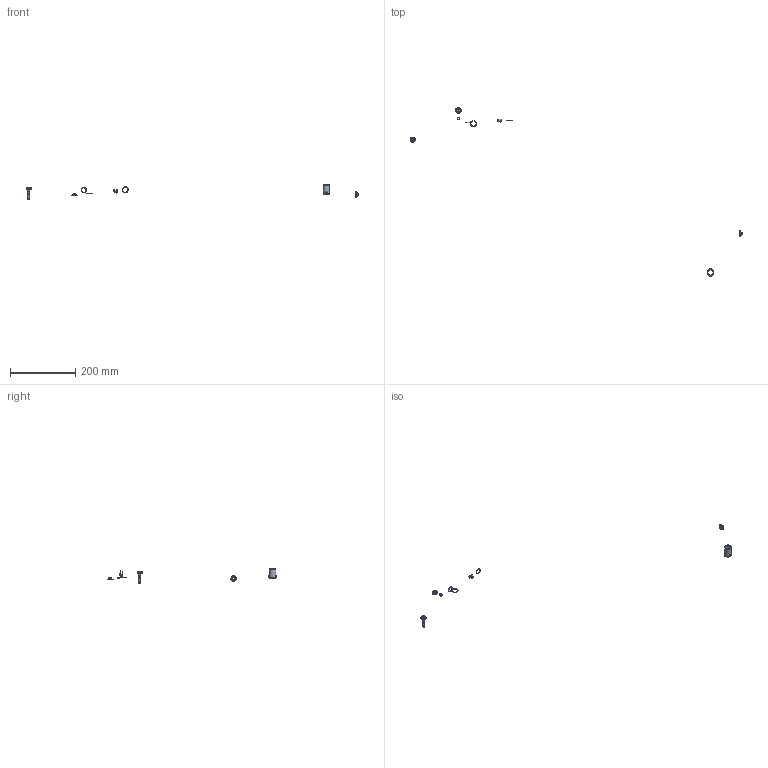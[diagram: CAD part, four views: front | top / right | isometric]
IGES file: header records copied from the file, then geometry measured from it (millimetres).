
Global section: file name: CY-222; native system: Autodesk RealDWG; preprocessor: Autodesk Translation Framework DWG producer (atf_dwg_producer); organization: unknown; date: 20151124.164523; units: centimetre
Bounding box: 1016.22 x 517.32 x 47.83 mm (x, y, z)
Volume: 6633.7 mm3; surface area: 8986.8 mm2
Topology: 14 solids, 14 shells, 187 faces, 454 edges, 316 vertices
Faces by surface type: bspline 187
